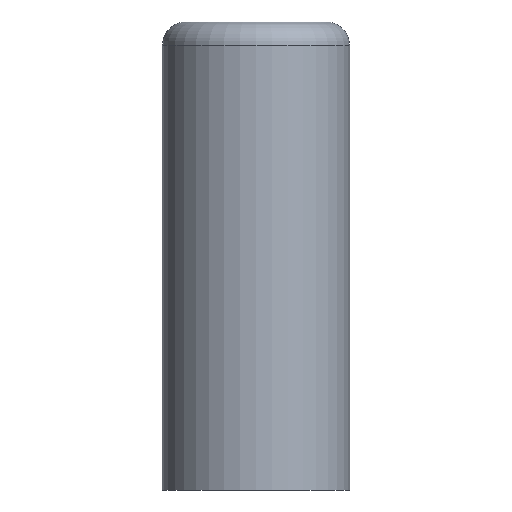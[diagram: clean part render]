
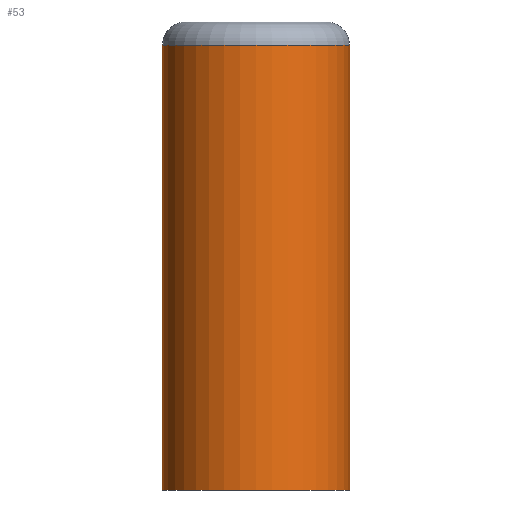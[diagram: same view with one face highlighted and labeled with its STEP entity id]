
A CAD part, front view. The second image highlights one B-rep face of the part: STEP entity #53.
In plain terms, the highlighted cylindrical face has radius 4 mm (diameter 8 mm), a full revolution.
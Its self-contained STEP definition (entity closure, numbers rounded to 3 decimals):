
#53=ADVANCED_FACE('',(#125,#127),#129,.T.);
#125=FACE_OUTER_BOUND('',#126,.T.);
#126=EDGE_LOOP('',(#197));
#127=FACE_OUTER_BOUND('',#128,.T.);
#128=EDGE_LOOP('',(#198));
#129=CYLINDRICAL_SURFACE('',#130,4.);
#130=AXIS2_PLACEMENT_3D('',#131,#132,#133);
#131=CARTESIAN_POINT('',(0.,0.,0.));
#132=DIRECTION('',(0.,0.,1.));
#133=DIRECTION('',(-1.,0.,0.));
#197=ORIENTED_EDGE('',*,*,#213,.F.);
#198=ORIENTED_EDGE('',*,*,#214,.T.);
#213=EDGE_CURVE('',#221,#221,#222,.T.);
#214=EDGE_CURVE('',#223,#223,#224,.T.);
#221=VERTEX_POINT('',#237);
#222=CIRCLE('',#238,4.);
#223=VERTEX_POINT('',#242);
#224=CIRCLE('',#243,4.);
#237=CARTESIAN_POINT('',(-4.,0.,19.));
#238=AXIS2_PLACEMENT_3D('',#239,#240,#241);
#239=CARTESIAN_POINT('',(0.,0.,19.));
#240=DIRECTION('',(0.,0.,1.));
#241=DIRECTION('',(-1.,0.,0.));
#242=CARTESIAN_POINT('',(-4.,0.,0.));
#243=AXIS2_PLACEMENT_3D('',#244,#245,#246);
#244=CARTESIAN_POINT('',(0.,0.,0.));
#245=DIRECTION('',(0.,0.,1.));
#246=DIRECTION('',(-1.,0.,0.));
